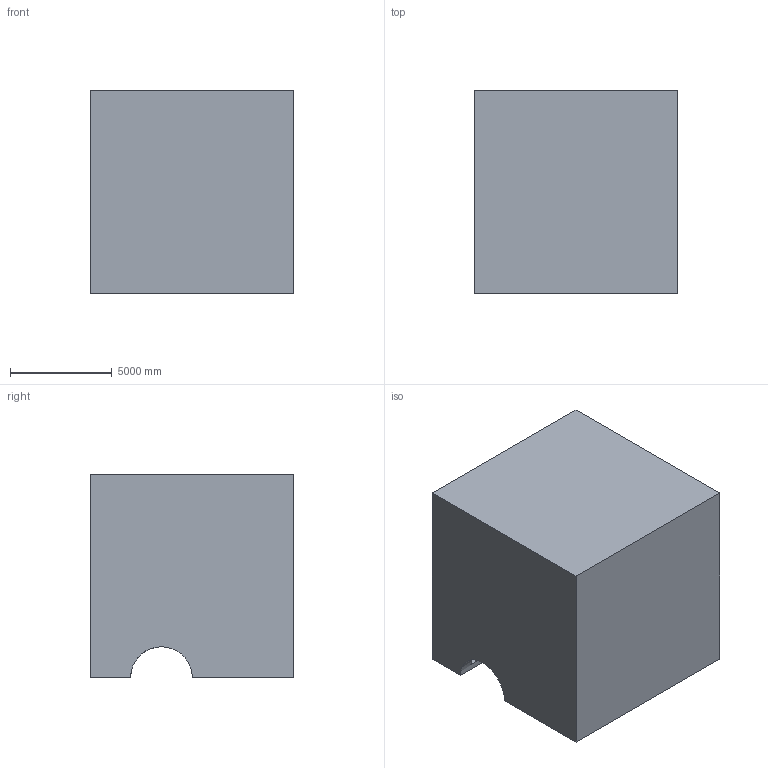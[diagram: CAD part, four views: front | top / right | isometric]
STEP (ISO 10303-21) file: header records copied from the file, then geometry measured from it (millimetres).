
FILE_DESCRIPTION (( 'STEP AP203' ), '1' );
FILE_NAME ('114.STEP', '2022-09-06T13:18:09', ( 'user' ), ( '' ), 'SwSTEP 2.0', 'SolidWorks 2021', '' );
FILE_SCHEMA (( 'CONFIG_CONTROL_DESIGN' ));
Length unit declared in the file: centimetre
Products named in the file (1): 114
Bounding box: 10000 x 10000 x 10000 mm (x, y, z)
Volume: 945537411497.6 mm3; surface area: 638383226.8 mm2
Topology: 1 solids, 1 shells, 14 faces, 39 edges, 26 vertices
Faces by surface type: plane 12, cylinder 2
Entity records: 532 total; most frequent: CARTESIAN_POINT 80, ORIENTED_EDGE 78, DIRECTION 77, EDGE_CURVE 39, LINE 31, VECTOR 31, VERTEX_POINT 26, AXIS2_PLACEMENT_3D 23
